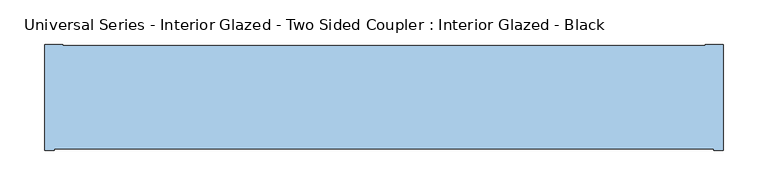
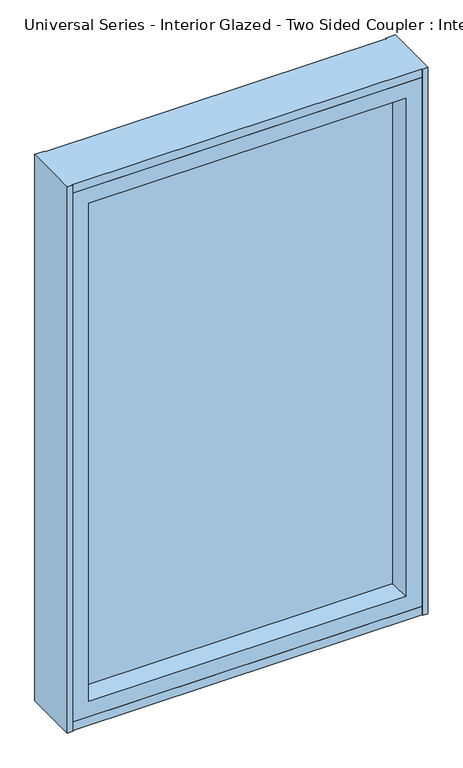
"""IFC4 building model written with IfcOpenShell, lengths in millimetres: window geometry, Universal Series - Interior Glazed - Two Sided Coupler : Interior Glazed - Black."""

import ifcopenshell
import ifcopenshell.guid

model = None  # the IFC model being written
_history = None  # IfcOwnerHistory: only IFC2X3 demands one
_inside = {}  # id of a spatial element -> (the spatial element, [elements in it])
_under = {}  # id of a project, library or spatial element -> (it, [spatial elements below it])
_declared = {}  # id of a project -> (the project, [libraries it declares])
_typed = {}  # id of a type object -> (the type object, [elements of that type])
_made_of = {}  # id of a material, layer set ... -> (it, [elements and type objects made of it])


def new_model(schema):
    """Start an empty IFC model of exactly this schema.

    Asked for "IFC4X3", IfcOpenShell would pick the latest addendum, in which some entities
    have other attributes; the version numbers below select the first issue.
    IFC2X3 requires an IfcOwnerHistory on every rooted entity: one is made here for all.
    """
    global model, _history
    if schema == "IFC4X3":
        model = ifcopenshell.file(schema_version=(4, 3, 0, 0))
    else:
        model = ifcopenshell.file(schema=schema)
    _inside.clear()
    _under.clear()
    _declared.clear()
    _typed.clear()
    _made_of.clear()
    _history = None
    if model.schema == "IFC2X3":
        org = make("IfcOrganization", Name="unknown")
        user = make(
            "IfcPersonAndOrganization",
            ThePerson=make("IfcPerson", FamilyName="unknown"),
            TheOrganization=org,
        )
        app = make(
            "IfcApplication",
            ApplicationDeveloper=org,
            Version="unknown",
            ApplicationFullName="unknown",
            ApplicationIdentifier="unknown",
        )
        _history = make(
            "IfcOwnerHistory",
            OwningUser=user,
            OwningApplication=app,
            ChangeAction="ADDED",
            CreationDate=0,
        )
    return model


def make(cls, **values):
    """One entity of the class cls with the attributes given. An attribute that is None is left unset."""
    return model.create_entity(
        cls, **{name: value for name, value in values.items() if value is not None}
    )


def rooted(cls, **values):
    """An entity with a GlobalId (a new one), such as an element, a storey or a relation."""
    return make(cls, GlobalId=ifcopenshell.guid.new(), OwnerHistory=_history, **values)


def si_unit(unit_type, name, prefix=None):
    """IfcSIUnit, for example si_unit("LENGTHUNIT", "METRE", prefix="MILLI")."""
    return make("IfcSIUnit", UnitType=unit_type, Prefix=prefix, Name=name)


def assignment(units):
    """IfcUnitAssignment: the units of a project."""
    return None if units is None else make("IfcUnitAssignment", Units=units)


def point(xyz):
    """IfcCartesianPoint."""
    return None if xyz is None else make("IfcCartesianPoint", Coordinates=xyz)


def direction(xyz):
    """IfcDirection."""
    return None if xyz is None else make("IfcDirection", DirectionRatios=xyz)


def frame(location, z_axis=None, x_axis=None):
    """IfcAxis2Placement3D, a coordinate frame: its origin and axes. An axis left out is left unset."""
    return make(
        "IfcAxis2Placement3D",
        Location=point(location),
        Axis=direction(z_axis),
        RefDirection=direction(x_axis),
    )


def origin():
    """The frame at (0, 0, 0) with its axes left unset."""
    return frame((0.0, 0.0, 0.0))


def place(relative_to, where):
    """IfcLocalPlacement: puts the frame where relative to a parent placement (None: the world)."""
    return make(
        "IfcLocalPlacement", PlacementRelTo=relative_to, RelativePlacement=where
    )


def context(
    kind, dimensions, precision=None, world=None, true_north=None, identifier=None
):
    """IfcGeometricRepresentationContext, for example the 3D "Model" context."""
    return make(
        "IfcGeometricRepresentationContext",
        ContextIdentifier=identifier,
        ContextType=kind,
        CoordinateSpaceDimension=dimensions,
        Precision=precision,
        WorldCoordinateSystem=world,
        TrueNorth=true_north,
    )


def project(units=None, contexts=None):
    """IfcProject with its units and contexts."""
    return rooted(
        "IfcProject",
        Name="project",
        RepresentationContexts=contexts,
        UnitsInContext=assignment(units),
    )


def spatial(cls, under=None, at=None, **own):
    """A site, building, storey or space (cls), placed at a placement, below another one or the project."""
    s = rooted(cls, ObjectPlacement=at, **own)
    if under is not None:
        _under.setdefault(under.id(), (under, []))[1].append(s)
    return s


def polyline(points):
    """IfcPolyline through the points."""
    return make("IfcPolyline", Points=[point(p) for p in points])


def outline(outer, holes=None, kind="AREA"):
    """IfcArbitraryClosedProfileDef: a profile drawn as a closed curve; with holes, ...WithVoids."""
    if holes is None:
        return make("IfcArbitraryClosedProfileDef", ProfileType=kind, OuterCurve=outer)
    return make(
        "IfcArbitraryProfileDefWithVoids",
        ProfileType=kind,
        OuterCurve=outer,
        InnerCurves=holes,
    )


def extrude(swept, where, along, depth):
    """IfcExtrudedAreaSolid: the profile swept, set in the frame where, extruded along a direction by depth."""
    return make(
        "IfcExtrudedAreaSolid",
        SweptArea=swept,
        Position=where,
        ExtrudedDirection=direction(along),
        Depth=depth,
    )


def faces_of(points, faces, orient=None, outer=None):
    """IfcFace entities. A face is a list of loops; a loop is a list of indices into points, from 0.

    orient and outer hold one flag for each loop. By default every Orientation is true, the
    first loop of a face is its IfcFaceOuterBound and the others are IfcFaceBound.
    """
    made = []
    for i, loops in enumerate(faces):
        bounds = []
        for j, loop in enumerate(loops):
            is_outer = j == 0 if outer is None else outer[i][j]
            bounds.append(
                make(
                    "IfcFaceOuterBound" if is_outer else "IfcFaceBound",
                    Bound=make("IfcPolyLoop", Polygon=[points[k] for k in loop]),
                    Orientation=True if orient is None else orient[i][j],
                )
            )
        made.append(make("IfcFace", Bounds=bounds))
    return made


def faceted_brep(points, faces, orient=None, outer=None, voids=None):
    """IfcFacetedBrep: a solid bounded by flat faces; with voids (closed shells), ...WithVoids."""
    shared = [point(p) for p in points]
    hull = make("IfcClosedShell", CfsFaces=faces_of(shared, faces, orient, outer))
    if voids is None:
        return make("IfcFacetedBrep", Outer=hull)
    return make(
        "IfcFacetedBrepWithVoids",
        Outer=hull,
        Voids=[
            make(cls, CfsFaces=faces_of(shared, fs, o, b)) for cls, fs, o, b in voids
        ],
    )


def shape(context_of_items, identifier, shape_type, items):
    """IfcShapeRepresentation: the items that make up one representation, for example the "Body"."""
    return make(
        "IfcShapeRepresentation",
        ContextOfItems=context_of_items,
        RepresentationIdentifier=identifier,
        RepresentationType=shape_type,
        Items=items,
    )


def source(mapping_origin, context_of_items, identifier, shape_type, items):
    """IfcRepresentationMap: a shape defined once, which mapped items show again and again."""
    return make(
        "IfcRepresentationMap",
        MappingOrigin=mapping_origin,
        MappedRepresentation=shape(context_of_items, identifier, shape_type, items),
    )


def transform(
    local_origin,
    x_axis=None,
    y_axis=None,
    z_axis=None,
    scale=None,
    scale2=None,
    scale3=None,
    uniform=True,
):
    """IfcCartesianTransformationOperator3D, or its non-uniform kind. x_axis, y_axis, z_axis: its Axis1, 2, 3."""
    if uniform:
        return make(
            "IfcCartesianTransformationOperator3D",
            Axis1=direction(x_axis),
            Axis2=direction(y_axis),
            LocalOrigin=point(local_origin),
            Scale=scale,
            Axis3=direction(z_axis),
        )
    return make(
        "IfcCartesianTransformationOperator3DnonUniform",
        Axis1=direction(x_axis),
        Axis2=direction(y_axis),
        LocalOrigin=point(local_origin),
        Scale=scale,
        Axis3=direction(z_axis),
        Scale2=scale2,
        Scale3=scale3,
    )


def mapped(mapping_source, mapping_target):
    """IfcMappedItem: shows the shape of a source again, moved by a transform."""
    return make(
        "IfcMappedItem", MappingSource=mapping_source, MappingTarget=mapping_target
    )


def made_of(thing, what):
    """Note that an element or type object is made of a material, layer set ...; save() writes the relation."""
    if what is not None:
        _made_of.setdefault(what.id(), (what, []))[1].append(thing)
    return thing


def element(
    cls,
    number,
    at=None,
    inside=None,
    cuts=None,
    type_object=None,
    material=None,
    context=None,
    identifier="Body",
    shape_type=None,
    held_by="IfcProductDefinitionShape",
    body=None,
    shapes=None,
    **own,
):
    """One element of the class cls, such as IfcWall. Its Tag is "e" and its number.

    at: its placement. inside: the storey or other place that contains it. cuts: it is an
    opening in that element (IfcRelVoidsElement). A single representation is given by context,
    identifier, shape_type and body (its items); several are given by shapes. held_by: the class
    of the entity that holds the representations. save() writes the other relations.
    """
    e = rooted(cls, Tag="e%d" % number, ObjectPlacement=at, **own)
    if body is not None:
        shapes = [shape(context, identifier, shape_type, body)]
    if shapes is not None:
        e.Representation = make(held_by, Representations=shapes)
    if inside is not None:
        _inside.setdefault(inside.id(), (inside, []))[1].append(e)
    if cuts is not None:
        rooted(
            "IfcRelVoidsElement", RelatingBuildingElement=cuts, RelatedOpeningElement=e
        )
    if type_object is not None:
        _typed.setdefault(type_object.id(), (type_object, []))[1].append(e)
    return made_of(e, material)


def aggregate(whole, parts):
    """IfcRelAggregates: a whole, such as a stair, and the parts it consists of."""
    return rooted("IfcRelAggregates", RelatingObject=whole, RelatedObjects=parts)


def save(model, path):
    """Write the relations noted so far, then the file.

    IfcRelAggregates (storeys below a building ...), IfcRelContainedInSpatialStructure (elements
    in a storey), IfcRelDefinesByType, IfcRelAssociatesMaterial and IfcRelDeclares: one each for
    every whole, place, type object, material and project.
    """
    for whole, parts in _under.values():
        aggregate(whole, parts)
    for where, things in _inside.values():
        rooted(
            "IfcRelContainedInSpatialStructure",
            RelatedElements=things,
            RelatingStructure=where,
        )
    for kind, things in _typed.values():
        rooted("IfcRelDefinesByType", RelatedObjects=things, RelatingType=kind)
    for what, things in _made_of.values():
        rooted("IfcRelAssociatesMaterial", RelatedObjects=things, RelatingMaterial=what)
    for by, libraries in _declared.values():
        rooted("IfcRelDeclares", RelatingContext=by, RelatedDefinitions=libraries)
    model.write(path)


def universal_series_interior_glazed_two_sided_coupler_interior_26a44fa0(model_context):
    return source(origin(), model_context, "Body", "SolidModel", [
        faceted_brep([(-381.0, 147.625, 1981.2), (-381.0, 147.625, 762.0), (-381.0, 28.5625, 762.0), (-381.0, 28.5625, 1981.2), (-360.3625, 147.625, 1981.2), (-360.3625, 147.625, 762.0), (-360.3625, 146.0375, 762.0), (360.3625, 146.0375, 762.0), (360.3625, 147.625, 762.0), (381.0, 147.625, 762.0), (381.0, 28.5625, 762.0), (369.8875, 28.5625, 762.0), (369.8875, 30.15, 762.0), (-369.8875, 30.15, 762.0), (-369.8875, 28.5625, 762.0), (-369.8875, 28.5625, 1981.2), (360.3625, 147.625, 1981.2), (381.0, 147.625, 1981.2), (381.0, 28.5625, 1981.2), (369.8875, 28.5625, 1981.2), (331.7875, 100.0, 819.15), (331.7875, 100.0, 1924.05), (331.7875, 112.7, 1924.05), (331.7875, 112.7, 819.15), (360.3625, 112.7, 1952.625), (360.3625, 112.7, 790.575), (-360.3625, 112.7, 790.575), (-360.3625, 112.7, 1952.625), (-331.7875, 112.7, 1924.05), (-331.7875, 112.7, 819.15), (-331.7875, 100.0, 1924.05), (-331.7875, 100.0, 819.15), (360.3625, 146.0375, 790.575), (360.3625, 146.0375, 1952.625), (360.3625, 146.0375, 1981.2), (-360.3625, 146.0375, 790.575), (-360.3625, 146.0375, 1981.2), (-360.3625, 146.0375, 1952.625), (360.3625, 100.0, 790.575), (360.3625, 100.0, 1952.625), (-360.3625, 100.0, 1952.625), (-360.3625, 100.0, 790.575), (360.3625, 44.4375, 790.575), (360.3625, 44.4375, 1952.625), (-360.3625, 44.4375, 1952.625), (-360.3625, 44.4375, 790.575), (369.8875, 44.4375, 781.05), (369.8875, 44.4375, 1962.15), (-369.8875, 44.4375, 1962.15), (-369.8875, 44.4375, 781.05), (369.8875, 30.15, 1981.2), (369.8875, 30.15, 1962.15), (369.8875, 30.15, 781.05), (-369.8875, 30.15, 781.05), (-369.8875, 30.15, 1962.15), (-369.8875, 30.15, 1981.2)], [[[0, 1, 2, 3]], [[0, 4, 5, 1]], [[2, 1, 5, 6, 7, 8, 9, 10, 11, 12, 13, 14]], [[15, 3, 2, 14]], [[16, 17, 9, 8]], [[9, 17, 18, 10]], [[18, 19, 11, 10]], [[20, 21, 22, 23]], [[24, 25, 26, 27], [23, 22, 28, 29]], [[29, 28, 30, 31]], [[20, 23, 29, 31]], [[16, 8, 7, 32, 25, 24, 33, 34]], [[26, 25, 32, 35]], [[5, 4, 36, 37, 27, 26, 35, 6]], [[38, 39, 40, 41], [21, 20, 31, 30]], [[42, 43, 39, 38]], [[44, 45, 41, 40]], [[42, 38, 41, 45]], [[46, 47, 48, 49], [43, 42, 45, 44]], [[11, 19, 50, 51, 47, 46, 52, 12]], [[15, 14, 13, 53, 49, 48, 54, 55]], [[52, 46, 49, 53]], [[32, 7, 6, 35]], [[12, 52, 53, 13]], [[34, 33, 37, 36]], [[33, 24, 27, 37]], [[22, 21, 30, 28]], [[40, 39, 43, 44]], [[48, 47, 51, 54]], [[51, 50, 55, 54]], [[0, 3, 15, 55, 50, 19, 18, 17, 16, 34, 36, 4]]]),
        extrude(outline(polyline([(360.3625, 100.0), (360.3625, 94.840625), (-360.3625, 94.840625), (-360.3625, 100.0), (360.3625, 100.0)])), frame((0.0, 0.0, 790.575), z_axis=(0.0, 0.0, 1.0), x_axis=(1.0, 0.0, 0.0)), (0.0, 0.0, 1.0), 1162.05),
        extrude(outline(polyline([(360.3625, 76.584375), (360.3625, 71.425), (-360.3625, 71.425), (-360.3625, 76.584375), (360.3625, 76.584375)])), frame((0.0, 0.0, 790.575), z_axis=(0.0, 0.0, 1.0), x_axis=(1.0, 0.0, 0.0)), (0.0, 0.0, 1.0), 1162.05),
        faceted_brep([(334.9625, 30.15, 1927.225), (330.2, 71.425, 1922.4625), (330.2, 71.425, 820.7375), (334.9625, 30.15, 815.975), (-330.2, 71.425, 820.7375), (-334.9625, 30.15, 815.975), (-336.55, 71.425, 1928.8125), (336.55, 71.425, 1928.8125), (336.55, 71.425, 814.3875), (-336.55, 71.425, 814.3875), (-330.2, 71.425, 1922.4625), (-334.9625, 30.15, 1927.225), (-369.8875, 30.15, 1962.15), (-369.8875, 30.15, 781.05), (369.8875, 30.15, 781.05), (369.8875, 30.15, 1962.15), (369.8875, 31.7375, 1962.15), (369.8875, 31.7375, 781.05), (-369.8875, 31.7375, 781.05), (-369.8875, 31.7375, 1962.15), (-360.3625, 31.7375, 1952.625), (-360.3625, 31.7375, 790.575), (360.3625, 31.7375, 790.575), (360.3625, 31.7375, 1952.625), (360.3625, 50.7875, 1952.625), (360.3625, 50.7875, 790.575), (-360.3625, 50.7875, 790.575), (-360.3625, 50.7875, 1952.625)], [[[0, 1, 2, 3]], [[3, 2, 4, 5]], [[6, 7, 8, 9], [10, 4, 2, 1]], [[5, 4, 10, 11]], [[12, 13, 14, 15], [11, 0, 3, 5]], [[16, 15, 14, 17]], [[17, 14, 13, 18]], [[18, 13, 12, 19]], [[19, 16, 17, 18], [20, 21, 22, 23]], [[24, 23, 22, 25]], [[25, 22, 21, 26]], [[26, 21, 20, 27]], [[8, 25, 26, 9]], [[7, 24, 25, 8]], [[9, 26, 27, 6]], [[11, 10, 1, 0]], [[19, 12, 15, 16]], [[27, 20, 23, 24]], [[6, 27, 24, 7]]]),
    ])


if __name__ == "__main__":
    model = new_model("IFC4")
    model_context = context("Model", 3, world=origin())
    ifc_project = project(units=[si_unit("LENGTHUNIT", "METRE", prefix="MILLI")], contexts=[model_context])
    site = spatial("IfcSite", under=ifc_project)
    building = spatial("IfcBuilding", under=site)
    placement = place(None, origin())
    universal_series_interior_glazed_two_sided_coupler_interior_shape = universal_series_interior_glazed_two_sided_coupler_interior_26a44fa0(model_context)
    element("IfcWindow", 1, ObjectType="Universal Series - Interior Glazed - Two Sided Coupler : Interior Glazed - Black", at=placement, inside=building, context=model_context, shape_type="MappedRepresentation", body=[
        mapped(universal_series_interior_glazed_two_sided_coupler_interior_shape, transform((0.0, 0.0, 0.0), x_axis=(1.0, 0.0, 0.0), y_axis=(0.0, 1.0, 0.0), z_axis=(0.0, 0.0, 1.0))),
    ])
    save(model, "model.ifc")
